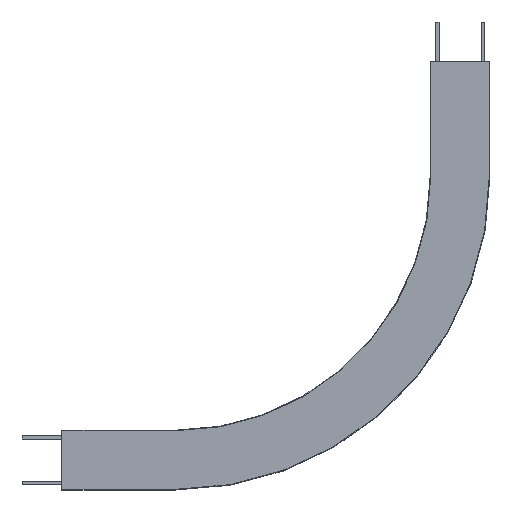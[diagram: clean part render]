
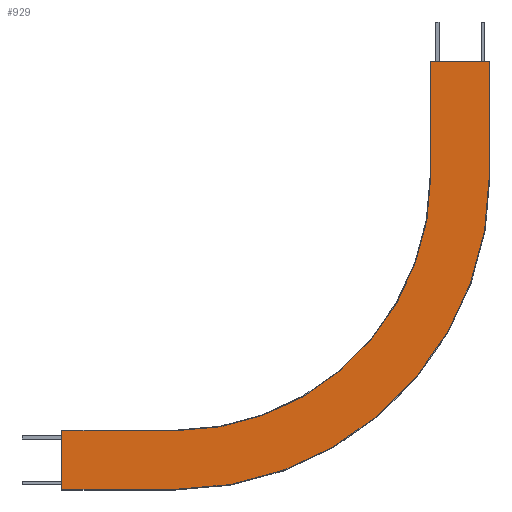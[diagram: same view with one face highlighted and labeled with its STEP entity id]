
A CAD part, top view. The second image highlights one B-rep face of the part: STEP entity #929.
In plain terms, the highlighted planar face has unit normal (0, 0, -1).
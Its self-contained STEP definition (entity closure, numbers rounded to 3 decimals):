
#61=CIRCLE('',#1011,448.5);
#62=CIRCLE('',#1013,551.5);
#119=FACE_OUTER_BOUND('',#171,.T.);
#171=EDGE_LOOP('',(#794,#795,#796,#797,#798,#799,#800,#801));
#253=LINE('',#1463,#363);
#255=LINE('',#1469,#365);
#262=LINE('',#1490,#372);
#267=LINE('',#1499,#377);
#268=LINE('',#1501,#378);
#269=LINE('',#1502,#379);
#363=VECTOR('',#1198,10.);
#365=VECTOR('',#1202,10.);
#372=VECTOR('',#1223,10.);
#377=VECTOR('',#1232,10.);
#378=VECTOR('',#1235,10.);
#379=VECTOR('',#1236,10.);
#453=VERTEX_POINT('',#1457);
#455=VERTEX_POINT('',#1461);
#456=VERTEX_POINT('',#1465);
#458=VERTEX_POINT('',#1468);
#461=VERTEX_POINT('',#1475);
#462=VERTEX_POINT('',#1480);
#464=VERTEX_POINT('',#1486);
#467=VERTEX_POINT('',#1497);
#565=EDGE_CURVE('',#453,#455,#253,.T.);
#567=EDGE_CURVE('',#456,#458,#255,.T.);
#572=EDGE_CURVE('',#461,#453,#61,.T.);
#574=EDGE_CURVE('',#462,#456,#62,.T.);
#578=EDGE_CURVE('',#464,#461,#262,.T.);
#583=EDGE_CURVE('',#467,#462,#267,.T.);
#584=EDGE_CURVE('',#467,#464,#268,.T.);
#585=EDGE_CURVE('',#455,#458,#269,.T.);
#794=ORIENTED_EDGE('',*,*,#584,.T.);
#795=ORIENTED_EDGE('',*,*,#578,.T.);
#796=ORIENTED_EDGE('',*,*,#572,.T.);
#797=ORIENTED_EDGE('',*,*,#565,.T.);
#798=ORIENTED_EDGE('',*,*,#585,.T.);
#799=ORIENTED_EDGE('',*,*,#567,.F.);
#800=ORIENTED_EDGE('',*,*,#574,.F.);
#801=ORIENTED_EDGE('',*,*,#583,.F.);
#879=PLANE('',#1018);
#929=ADVANCED_FACE('',(#119),#879,.F.);
#1011=AXIS2_PLACEMENT_3D('',#1478,#1210,#1211);
#1013=AXIS2_PLACEMENT_3D('',#1483,#1215,#1216);
#1018=AXIS2_PLACEMENT_3D('',#1500,#1233,#1234);
#1198=DIRECTION('',(0.,1.,0.));
#1202=DIRECTION('',(0.,1.,0.));
#1210=DIRECTION('center_axis',(0.,0.,1.));
#1211=DIRECTION('ref_axis',(0.,-1.,0.));
#1215=DIRECTION('center_axis',(0.,0.,1.));
#1216=DIRECTION('ref_axis',(0.,-1.,0.));
#1223=DIRECTION('',(1.,0.,0.));
#1232=DIRECTION('',(1.,0.,0.));
#1233=DIRECTION('center_axis',(0.,0.,1.));
#1234=DIRECTION('ref_axis',(0.,-1.,0.));
#1235=DIRECTION('',(0.,1.,0.));
#1236=DIRECTION('',(1.,0.,0.));
#1457=CARTESIAN_POINT('',(648.5,500.,43.));
#1461=CARTESIAN_POINT('',(648.5,700.,43.));
#1463=CARTESIAN_POINT('',(648.5,500.,43.));
#1465=CARTESIAN_POINT('',(751.5,500.,43.));
#1468=CARTESIAN_POINT('',(751.5,700.,43.));
#1469=CARTESIAN_POINT('',(751.5,500.,43.));
#1475=CARTESIAN_POINT('',(200.,51.5,43.));
#1478=CARTESIAN_POINT('Origin',(200.,500.,43.));
#1480=CARTESIAN_POINT('',(200.,-51.5,43.));
#1483=CARTESIAN_POINT('Origin',(200.,500.,43.));
#1486=CARTESIAN_POINT('',(0.,51.5,43.));
#1490=CARTESIAN_POINT('',(0.,51.5,43.));
#1497=CARTESIAN_POINT('',(0.,-51.5,43.));
#1499=CARTESIAN_POINT('',(0.,-51.5,43.));
#1500=CARTESIAN_POINT('Origin',(0.,51.5,43.));
#1501=CARTESIAN_POINT('',(0.,-51.5,43.));
#1502=CARTESIAN_POINT('',(751.5,700.,43.));
